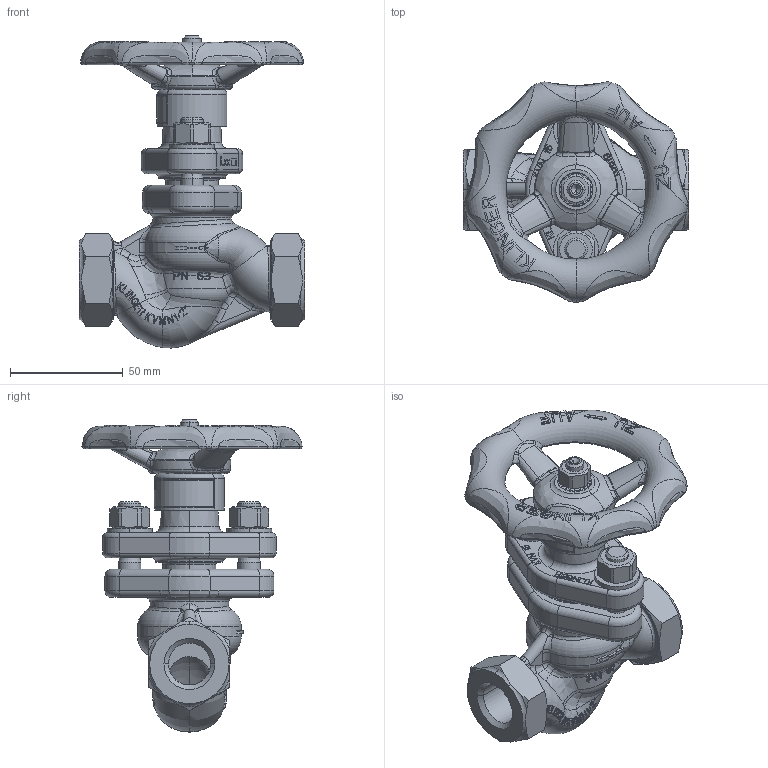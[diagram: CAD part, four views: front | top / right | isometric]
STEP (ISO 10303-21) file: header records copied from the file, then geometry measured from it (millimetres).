
FILE_DESCRIPTION((''),'2;1');
FILE_NAME('KVMN-G12S-----P063PGG_SW0001','2015-07-08T',('jeitlers'),('RAND'),'PRO/ENGINEER BY PARAMETRIC TECHNOLOGY CORPORATION, 2013410','PRO/ENGINEER BY PARAMETRIC TECHNOLOGY CORPORATION, 2013410','');
FILE_SCHEMA(('CONFIG_CONTROL_DESIGN'));
Products named in the file (1): KVMN-G12S-----P063PGG_SW0001
Bounding box: 100 x 97.69 x 138.51 mm (x, y, z)
Volume: 203210.3 mm3; surface area: 76011.6 mm2
Topology: 1 solids, 1 shells, 2536 faces, 6833 edges, 4377 vertices
Faces by surface type: plane 1586, bspline 461, cylinder 237, torus 125, cone 100, extrusion 23, sphere 4
Entity records: 140326 total; most frequent: CARTESIAN_POINT 82966, ORIENTED_EDGE 13658, DIRECTION 9265, EDGE_CURVE 6829, VERTEX_POINT 4377, VECTOR 3103, AXIS2_PLACEMENT_3D 3081, LINE 3080
